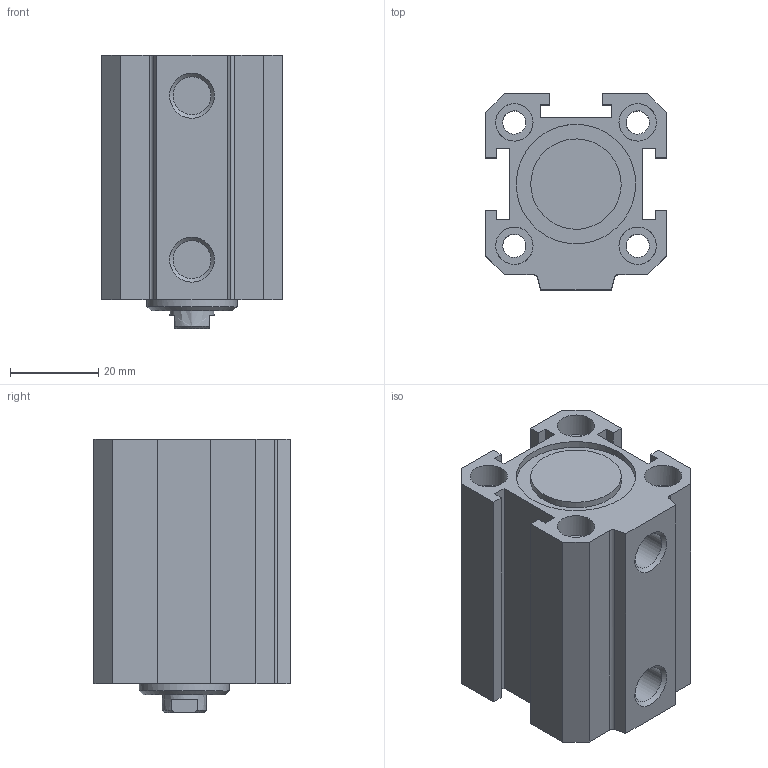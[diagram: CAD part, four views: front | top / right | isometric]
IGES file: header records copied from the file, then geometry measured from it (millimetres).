
Global section: file name: 1511_25_0020; native system: Autodesk Inventor 2014; preprocessor: unknown; author: A. Manieri; date: 20160824.111841; units: millimetre
Bounding box: 41 x 44.5 x 62 mm (x, y, z)
Volume: 65927.8 mm3; surface area: 27034.7 mm2
Topology: 2 solids, 2 shells, 93 faces, 241 edges, 170 vertices
Faces by surface type: bspline 93
